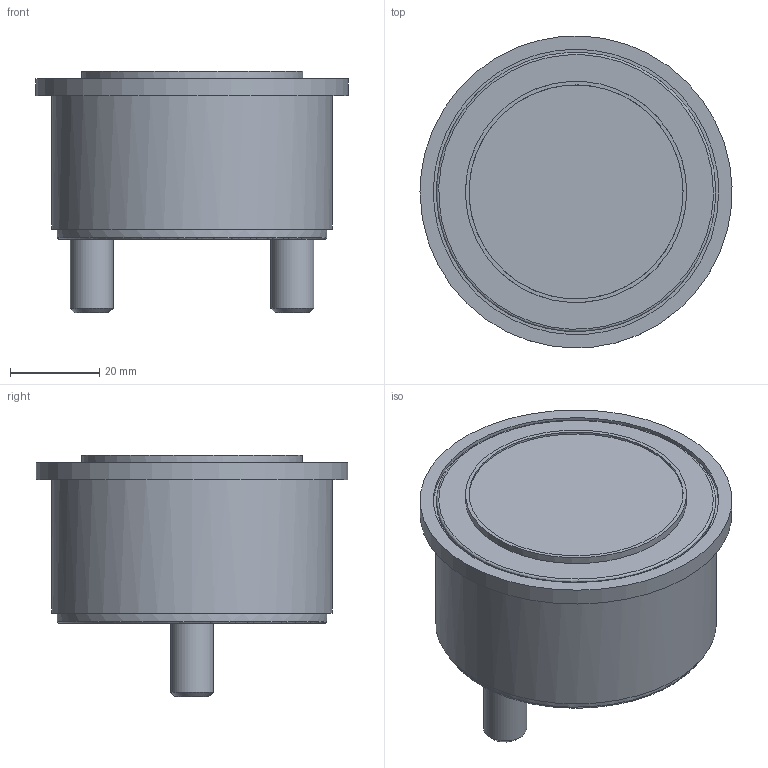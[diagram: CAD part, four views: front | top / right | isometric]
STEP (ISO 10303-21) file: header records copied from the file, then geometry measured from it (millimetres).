
FILE_DESCRIPTION(/* description */ (''),/* implementation_level */ '2;1');
FILE_NAME(/* name */ '9',/* time_stamp */ '2022-06-30T10:47:49+02:00',/* author */ (''),/* organization */ (''),/* preprocessor_version */ 'ST-DEVELOPER v16.5',/* originating_system */ 'Rhino 7.20',/* authorisation */ '');
FILE_SCHEMA (('AUTOMOTIVE_DESIGN_CC2'));
Length unit declared in the file: millimetre
Products named in the file (1): Document
Bounding box: 69.98 x 69.96 x 54.2 mm (x, y, z)
Volume: 119259.3 mm3; surface area: 16481.3 mm2
Topology: 1 solids, 1 shells, 23 faces, 35 edges, 22 vertices
Faces by surface type: plane 10, cylinder 9, bspline 4
Full cylindrical faces by diameter (mm): 9.64 x2, 48 x1, 49.6 x1, 60.5 x1, 62.6 x1, 63 x1, 64 x1, 70 x1
Entity records: 668 total; most frequent: CARTESIAN_POINT 359, ORIENTED_EDGE 70, EDGE_CURVE 35, EDGE_LOOP 31, ADVANCED_FACE 23, FACE_OUTER_BOUND 23, DIRECTION 23, VERTEX_POINT 22
